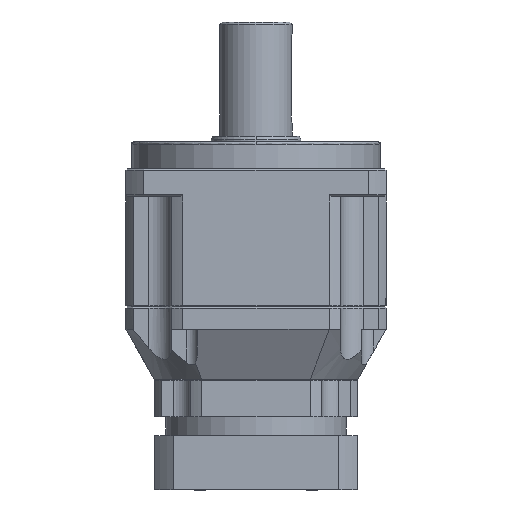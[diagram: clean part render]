
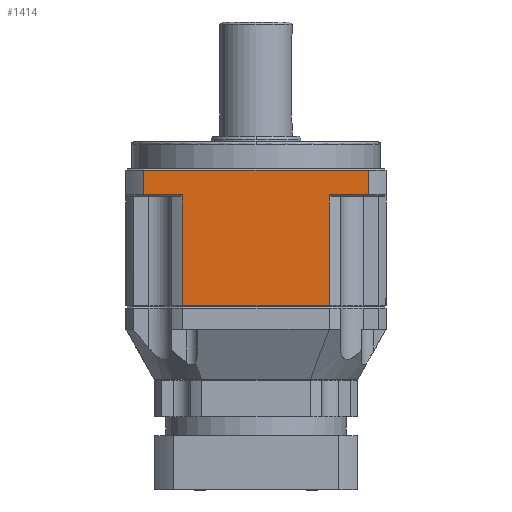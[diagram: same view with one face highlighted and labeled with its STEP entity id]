
A CAD part, front view. The second image highlights one B-rep face of the part: STEP entity #1414.
In plain terms, the highlighted planar face has unit normal (0, -1, 0).
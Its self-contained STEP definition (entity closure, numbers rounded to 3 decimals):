
#148 = CARTESIAN_POINT ( 'NONE',  ( 49.697, -57.5, 148.5 ) ) ;
#217 = ORIENTED_EDGE ( 'NONE', *, *, #8445, .F. ) ;
#246 = FACE_OUTER_BOUND ( 'NONE', #5299, .T. ) ;
#355 = LINE ( 'NONE', #6580, #12588 ) ;
#888 = LINE ( 'NONE', #4857, #15437 ) ;
#1056 = EDGE_CURVE ( 'NONE', #2497, #12558, #11806, .T. ) ;
#1365 = ORIENTED_EDGE ( 'NONE', *, *, #14538, .F. ) ;
#1414 = ADVANCED_FACE ( 'NONE', ( #246 ), #2496, .F. ) ;
#1933 = VERTEX_POINT ( 'NONE', #7481 ) ;
#1934 = CARTESIAN_POINT ( 'NONE',  ( -32.4, -57.5, 148.5 ) ) ;
#2372 = DIRECTION ( 'NONE',  ( 0., 1., 0. ) ) ;
#2435 = DIRECTION ( 'NONE',  ( 0., 0., 1. ) ) ;
#2496 = PLANE ( 'NONE',  #11572 ) ;
#2497 = VERTEX_POINT ( 'NONE', #16401 ) ;
#2514 = VERTEX_POINT ( 'NONE', #7644 ) ;
#3496 = LINE ( 'NONE', #6563, #8666 ) ;
#3564 = EDGE_CURVE ( 'NONE', #2514, #5935, #11264, .T. ) ;
#4095 = LINE ( 'NONE', #11057, #5652 ) ;
#4425 = DIRECTION ( 'NONE',  ( -1., 0., 0. ) ) ;
#4857 = CARTESIAN_POINT ( 'NONE',  ( -32.4, -57.5, 159.5 ) ) ;
#4898 = ORIENTED_EDGE ( 'NONE', *, *, #12533, .F. ) ;
#5297 = DIRECTION ( 'NONE',  ( 0., 0., 1. ) ) ;
#5299 = EDGE_LOOP ( 'NONE', ( #16293, #4898, #12068, #11644, #217, #7560, #1365, #17067 ) ) ;
#5652 = VECTOR ( 'NONE', #9644, 1000. ) ;
#5935 = VERTEX_POINT ( 'NONE', #8023 ) ;
#6560 = VECTOR ( 'NONE', #10681, 1000. ) ;
#6563 = CARTESIAN_POINT ( 'NONE',  ( -49.697, -57.5, 148. ) ) ;
#6580 = CARTESIAN_POINT ( 'NONE',  ( -32.4, -57.5, 148. ) ) ;
#6685 = CARTESIAN_POINT ( 'NONE',  ( -49.697, -57.5, 159.5 ) ) ;
#7036 = CARTESIAN_POINT ( 'NONE',  ( -32.4, -57.5, 148.5 ) ) ;
#7481 = CARTESIAN_POINT ( 'NONE',  ( -32.4, -57.5, 99.5 ) ) ;
#7560 = ORIENTED_EDGE ( 'NONE', *, *, #14893, .F. ) ;
#7644 = CARTESIAN_POINT ( 'NONE',  ( 32.4, -57.5, 148.5 ) ) ;
#7713 = CARTESIAN_POINT ( 'NONE',  ( -49.697, -57.5, 148.5 ) ) ;
#8023 = CARTESIAN_POINT ( 'NONE',  ( 32.4, -57.5, 99.5 ) ) ;
#8345 = CARTESIAN_POINT ( 'NONE',  ( -32.4, -57.5, 148. ) ) ;
#8445 = EDGE_CURVE ( 'NONE', #12793, #10924, #3496, .T. ) ;
#8666 = VECTOR ( 'NONE', #5297, 1000. ) ;
#8735 = CARTESIAN_POINT ( 'NONE',  ( 32.4, -57.5, 148. ) ) ;
#9245 = DIRECTION ( 'NONE',  ( -1., 0., 0. ) ) ;
#9644 = DIRECTION ( 'NONE',  ( 1., 0., 0. ) ) ;
#10424 = EDGE_CURVE ( 'NONE', #1933, #5935, #4095, .T. ) ;
#10460 = CARTESIAN_POINT ( 'NONE',  ( -32.4, -57.5, 148.5 ) ) ;
#10613 = CARTESIAN_POINT ( 'NONE',  ( 49.697, -57.5, 148. ) ) ;
#10681 = DIRECTION ( 'NONE',  ( 0., 0., -1. ) ) ;
#10776 = DIRECTION ( 'NONE',  ( 1., 0., 0. ) ) ;
#10833 = LINE ( 'NONE', #10460, #13607 ) ;
#10924 = VERTEX_POINT ( 'NONE', #6685 ) ;
#11057 = CARTESIAN_POINT ( 'NONE',  ( -32.4, -57.5, 99.5 ) ) ;
#11264 = LINE ( 'NONE', #8735, #15174 ) ;
#11438 = EDGE_CURVE ( 'NONE', #10924, #2497, #888, .T. ) ;
#11572 = AXIS2_PLACEMENT_3D ( 'NONE', #8345, #2372, #2435 ) ;
#11644 = ORIENTED_EDGE ( 'NONE', *, *, #11438, .F. ) ;
#11806 = LINE ( 'NONE', #10613, #6560 ) ;
#12068 = ORIENTED_EDGE ( 'NONE', *, *, #1056, .F. ) ;
#12533 = EDGE_CURVE ( 'NONE', #12558, #2514, #10833, .T. ) ;
#12558 = VERTEX_POINT ( 'NONE', #148 ) ;
#12588 = VECTOR ( 'NONE', #16564, 1000. ) ;
#12793 = VERTEX_POINT ( 'NONE', #7713 ) ;
#13607 = VECTOR ( 'NONE', #4425, 1000. ) ;
#14436 = LINE ( 'NONE', #1934, #17164 ) ;
#14538 = EDGE_CURVE ( 'NONE', #1933, #17325, #355, .T. ) ;
#14576 = DIRECTION ( 'NONE',  ( 0., 0., -1. ) ) ;
#14893 = EDGE_CURVE ( 'NONE', #17325, #12793, #14436, .T. ) ;
#15174 = VECTOR ( 'NONE', #14576, 1000. ) ;
#15437 = VECTOR ( 'NONE', #10776, 1000. ) ;
#16293 = ORIENTED_EDGE ( 'NONE', *, *, #3564, .F. ) ;
#16401 = CARTESIAN_POINT ( 'NONE',  ( 49.697, -57.5, 159.5 ) ) ;
#16564 = DIRECTION ( 'NONE',  ( 0., 0., 1. ) ) ;
#17067 = ORIENTED_EDGE ( 'NONE', *, *, #10424, .T. ) ;
#17164 = VECTOR ( 'NONE', #9245, 1000. ) ;
#17325 = VERTEX_POINT ( 'NONE', #7036 ) ;
